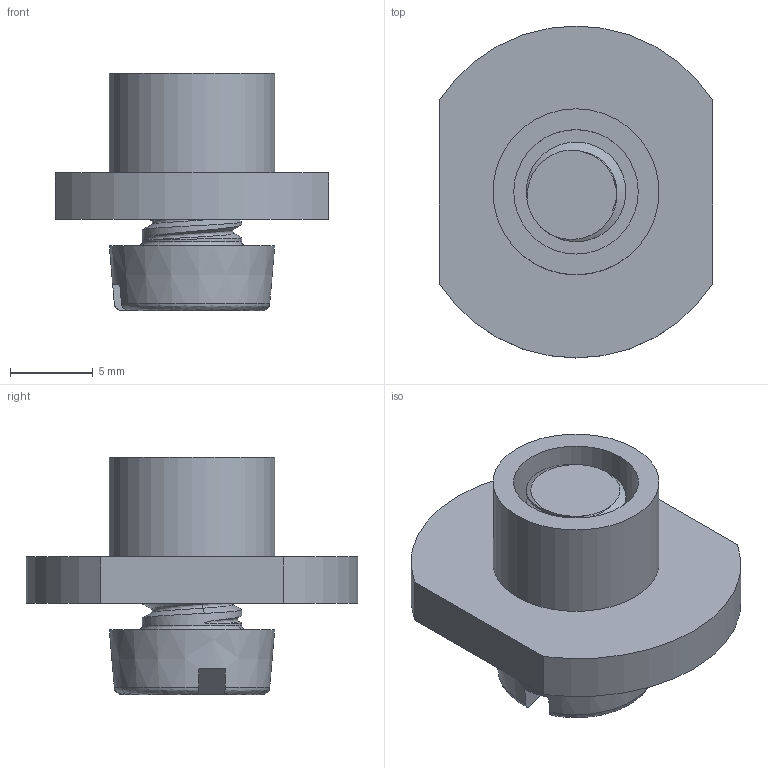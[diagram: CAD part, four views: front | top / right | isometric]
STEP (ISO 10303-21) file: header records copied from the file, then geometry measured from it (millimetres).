
FILE_DESCRIPTION(('FreeCAD Model'),'2;1');
FILE_NAME('Open CASCADE Shape Model','2022-11-09T23:42:41',( 'kicad StepUp'),('ksu MCAD'),'Open CASCADE STEP processor 7.5', 'FreeCAD','Unknown');
FILE_SCHEMA(('AUTOMOTIVE_DESIGN { 1 0 10303 214 1 1 1 1 }'));
Length unit declared in the file: millimetre
Products named in the file (3): Clip_Tube_IRL_20mm_Embase_ASM; Cut; M6x10-Screw
Assembly tree (2 placements, depth 2):
  Clip_Tube_IRL_20mm_Embase_ASM
    Cut
    M6x10-Screw
Bounding box: 16.5 x 20 x 14.3 mm (x, y, z)
Volume: 1382.2 mm3; surface area: 1679.3 mm2
Topology: 2 solids, 2 shells, 84 faces, 190 edges, 98 vertices
Faces by surface type: bspline 60, plane 14, cylinder 6, revolution 3, cone 1
Full cylindrical faces by diameter (mm): 6 x1, 7.5 x1, 10 x2
Entity records: 5327 total; most frequent: CARTESIAN_POINT 3961, ORIENTED_EDGE 348, EDGE_CURVE 174, DIRECTION 125, B_SPLINE_CURVE_WITH_KNOTS 103, VERTEX_POINT 98, FACE_BOUND 90, EDGE_LOOP 90
